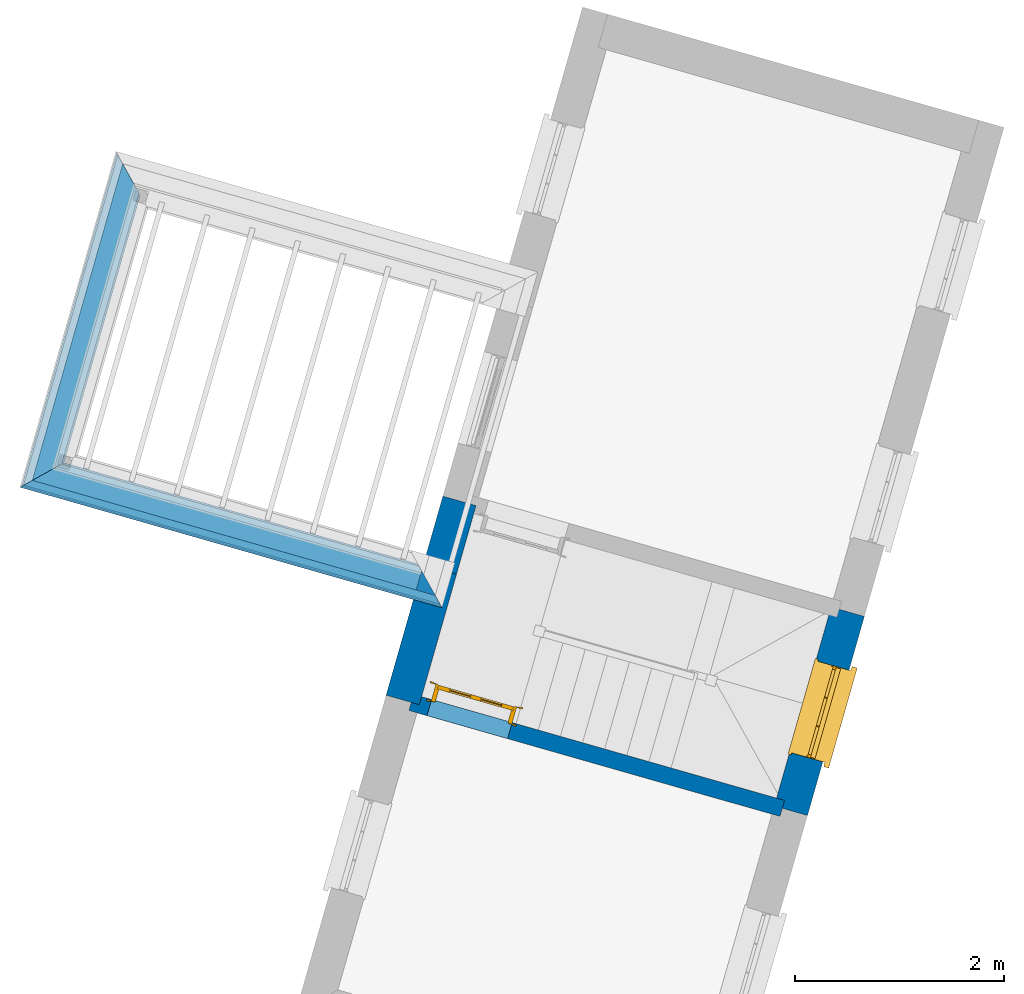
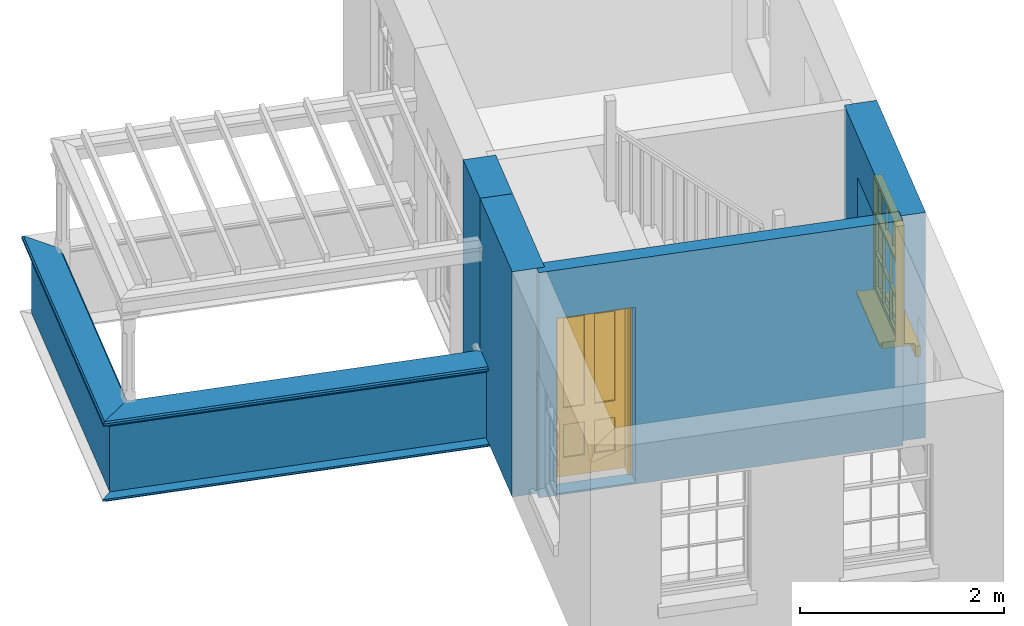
# One storey, part 2 of 6: 9 walls, 1 door, 1 window, 2 openings.
"""IFC4 building model written with IfcOpenShell, lengths in metres."""

from ifc_helpers import new_model, si_unit, frame, origin, origin_with_axes, place, context, subcontext, project, spatial, polyline, outline, extrude, clip, halfspace, faceted_brep, source, transform, mapped, material, layer, layer_set, layer_usage, material_profile, profile_set, profile_usage, type_object, type_shapes, element, fill, save


model = new_model("IFC4")

# Units and contexts
model_context = context("Model", 3, world=origin_with_axes())
body_context = subcontext(model_context, "Body", "Model", "MODEL_VIEW")
ifc_project = project(units=[si_unit("PLANEANGLEUNIT", "RADIAN"), si_unit("MASSUNIT", "GRAM", prefix="KILO"), si_unit("FORCEUNIT", "NEWTON", prefix="KILO"), si_unit("LENGTHUNIT", "METRE"), si_unit("AREAUNIT", "SQUARE_METRE"), si_unit("VOLUMEUNIT", "CUBIC_METRE")], contexts=[model_context, model_context])

# Sites, building, storey
site_1_placement = place(None, origin_with_axes())
site_1 = spatial("IfcSite", under=ifc_project, at=site_1_placement, Name="Tamar")
site_2_placement = place(site_1_placement, origin_with_axes())
site_2 = spatial("IfcSite", under=site_1, at=site_2_placement, Name="Site plot-20", CompositionType="ELEMENT")
building_placement = place(None, origin_with_axes())
building = spatial("IfcBuilding", under=site_2, at=building_placement, Name="Building plot-20", CompositionType="ELEMENT")
storey_placement = place(None, frame((0.0, 0.0, 29.15), z_axis=(0.0, 0.0, 1.0), x_axis=(1.0, 0.0, 0.0)))
storey = spatial("IfcBuildingStorey", under=building, at=storey_placement, Name="plot-20 1", CompositionType="ELEMENT", Elevation=29.15)

# Walls
ifc_material_1 = material(Name="Masonry")
ifc_layer_1 = layer(ifc_material_1, 0.33, ventilated=False)
ifc_layer_set_1 = layer_set([ifc_layer_1], Name="exterior_0.08_0.25")
ifc_layer_usage_1 = layer_usage(ifc_layer_set_1, "AXIS2", "POSITIVE", -0.25)
wall_type_1 = type_object("IfcWallType", Name="exterior_0.08_0.25", PredefinedType="SOLIDWALL", material=ifc_layer_set_1)
wall_1_placement = place(storey_placement, frame((277.587269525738, 289.452698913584, 0.0), z_axis=(0.0, 0.0, 1.0), x_axis=(-0.274568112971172, -0.96156765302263, 0.0)))
element("IfcWall", 1, at=wall_1_placement, inside=storey, type_object=wall_type_1, material=ifc_layer_usage_1, Name="exterior", context=body_context, shape_type="SweptSolid", body=[
    extrude(outline(polyline([(-8.47015431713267e-15, 0.0799999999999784), (-3.40685387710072e-14, -0.250000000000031), (0.682000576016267, -0.250000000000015), (0.682000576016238, 0.0799999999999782), (-8.47015431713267e-15, 0.0799999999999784)])), origin_with_axes(), (0.0, 0.0, 1.0), 2.7),
])
wall_2_placement = place(storey_placement, frame((277.400013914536, 288.796909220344, 0.0), z_axis=(0.0, 0.0, 1.0), x_axis=(-0.274568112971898, -0.961567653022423, 0.0)))
element("IfcWall", 2, at=wall_2_placement, inside=storey, type_object=wall_type_1, material=ifc_layer_usage_1, Name="exterior", context=body_context, shape_type="SweptSolid", body=[
    extrude(outline(polyline([(-6.88662868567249e-14, 0.0799999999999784), (2.09292348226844e-13, -0.250000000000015), (1.2961808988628, -0.250000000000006), (1.29618089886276, 0.079999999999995), (-6.88662868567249e-14, 0.0799999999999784)])), origin_with_axes(), (0.0, 0.0, 1.0), 2.7),
])

# Wall, opening, window
wall_3_placement = place(storey_placement, frame((280.589201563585, 286.538274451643, 0.0), z_axis=(0.0, 0.0, 1.0), x_axis=(0.274568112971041, 0.961567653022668, 0.0)))
wall_3 = element("IfcWall", 3, at=wall_3_placement, inside=storey, type_object=wall_type_1, material=ifc_layer_usage_1, Name="exterior", context=body_context, shape_type="SweptSolid", body=[
    extrude(outline(polyline([(5.71680616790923e-14, 0.079999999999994), (-1.93330031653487e-13, -0.250000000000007), (1.97818147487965, -0.250000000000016), (1.97818147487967, 0.0799999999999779), (5.71680616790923e-14, 0.079999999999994)])), origin_with_axes(), (0.0, 0.0, 1.0), 2.7),
])
opening_1_placement = place(wall_3_placement, frame((0.534090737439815, 0.0, 0.75)))
opening_1 = element("IfcOpeningElement", 4, at=opening_1_placement, cuts=wall_3, Name="My Opening", ObjectType="Opening", context=body_context, shape_type="SweptSolid", body=[
    extrude(outline(polyline([(0.0, -0.269999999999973), (0.910000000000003, -0.270000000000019), (0.910000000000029, 1.09999999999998), (2.58681964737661e-14, 1.10000000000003), (0.0, -0.269999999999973)])), origin_with_axes(), (0.0, 0.0, 1.0), 1.445),
])
window_type = type_object("IfcWindowType", Name="sash_shorter", PartitioningType="DOUBLE_PANEL_HORIZONTAL", PredefinedType="NOTDEFINED")
shared_shape_1 = source(origin(), body_context, "Body", "Brep", [
    faceted_brep([(0.876875, 0.145, 0.999097), (0.876875, 0.145, 1.411875), (0.9, 0.145, 1.435), (0.033125, 0.145, 1.411875), (0.033125, 0.145, 0.999097), (0.01, 0.145, 1.435), (0.033125, 0.115, 1.411875), (0.01, 0.115, 1.435), (0.033125, 0.115, 0.999097), (0.876875, 0.115, 1.411875), (0.876875, 0.115, 0.999097), (0.9, 0.115, 1.435), (0.033125, 0.145, 0.960972), (0.01, 0.145, 0.960972), (0.033125, 0.145, 0.548195), (0.876875, 0.145, 0.960972), (0.876875, 0.145, 0.548195), (0.9, 0.145, 0.960972), (0.876875, 0.145, 0.538195), (0.876875, 0.145, 0.125417), (0.9, 0.145, 0.077167), (0.033125, 0.145, 0.125417), (0.033125, 0.145, 0.538195), (0.01, 0.145, 0.077167), (0.9, 0.115, 0.960972), (0.01, 0.115, 0.960972), (-0.0425, 0.0, 0.01), (-0.0425, -0.05, 0.001667), (0.0, 0.0, 0.01), (0.9525, 0.0, 0.01), (0.91, 0.0, 0.01), (0.9525, -0.05, 0.001667), (-0.02, 0.33, 0.077167), (0.0, 0.33, 0.077167), (-0.02, 0.36, 0.077167), (0.0, 0.19, 0.077167), (0.01, 0.19, 0.077167), (0.91, 0.19, 0.077167), (0.91, 0.33, 0.077167), (0.9, 0.19, 0.077167), (0.93, 0.33, 0.077167), (0.93, 0.36, 0.077167), (0.01, 0.145, 0.999097), (0.01, 0.175, 0.999097), (0.9, 0.145, 0.999097), (0.9, 0.175, 0.999097), (0.876875, 0.175, 0.125417), (0.876875, 0.175, 0.538195), (0.9, 0.175, 0.077167), (0.876875, 0.175, 0.548195), (0.876875, 0.175, 0.960972), (0.033125, 0.175, 0.125417), (0.01, 0.175, 0.077167), (0.033125, 0.175, 0.538195), (0.033125, 0.175, 0.960972), (0.033125, 0.175, 0.548195), (-0.02, 0.33, 0.052167), (-0.02, 0.36, 0.052167), (0.93, 0.36, 0.052167), (0.93, 0.33, 0.052167), (0.91, 0.33, 0.052167), (0.0, 0.33, 0.052167), (0.91, 0.1, 0.026667), (0.0, 0.1, 0.026667), (-0.0425, -0.05, -0.123333), (0.9525, -0.05, -0.123333), (-0.0425, 0.0, -0.123333), (0.9525, 0.0, -0.123333), (0.01, 0.19, 1.435), (0.9, 0.19, 1.435), (0.0, 0.19, 1.445), (0.91, 0.19, 1.445), (0.01, 0.1, 0.077167), (0.9, 0.1, 0.077167), (0.592292, 0.145, 0.125417), (0.592292, 0.175, 0.125417), (0.317708, 0.175, 0.125417), (0.317708, 0.145, 0.125417), (0.592292, 0.145, 0.548195), (0.317708, 0.145, 0.548195), (0.317708, 0.145, 0.538195), (0.592292, 0.145, 0.538195), (0.592292, 0.175, 0.548195), (0.317708, 0.175, 0.548195), (0.602292, 0.175, 0.548195), (0.602292, 0.145, 0.548195), (0.317708, 0.175, 0.538195), (0.307708, 0.175, 0.125417), (0.307708, 0.175, 0.538195), (0.602292, 0.175, 0.538195), (0.602292, 0.175, 0.125417), (0.592292, 0.175, 0.538195), (0.307708, 0.175, 0.548195), (0.317708, 0.175, 0.960972), (0.307708, 0.175, 0.960972), (0.602292, 0.175, 0.960972), (0.592292, 0.175, 0.960972), (0.307708, 0.145, 0.538195), (0.307708, 0.145, 0.125417), (0.307708, 0.145, 0.548195), (0.307708, 0.145, 0.960972), (0.592292, 0.145, 0.960972), (0.317708, 0.145, 0.960972), (0.602292, 0.145, 0.960972), (0.602292, 0.145, 0.538195), (0.602292, 0.145, 0.125417), (0.317708, 0.115, 1.411875), (0.307708, 0.115, 1.411875), (0.307708, 0.115, 0.999097), (0.317708, 0.115, 0.999097), (0.602292, 0.115, 1.411875), (0.592292, 0.115, 1.411875), (0.592292, 0.115, 0.999097), (0.602292, 0.115, 0.999097), (0.317708, 0.145, 0.999097), (0.307708, 0.145, 0.999097), (0.307708, 0.145, 1.411875), (0.317708, 0.145, 1.411875), (0.602292, 0.145, 0.999097), (0.592292, 0.145, 0.999097), (0.592292, 0.145, 1.411875), (0.602292, 0.145, 1.411875), (0.91, 0.1, 1.445), (0.9, 0.1, 1.435), (0.01, 0.1, 1.435), (0.0, 0.1, 1.445), (0.91, 0.0, 0.0), (0.0, 0.0, 0.0), (0.91, 0.33, 0.0), (0.0, 0.33, 0.0)], [[[0, 1, 2]], [[3, 4, 5]], [[6, 7, 8]], [[9, 10, 11]], [[12, 13, 14]], [[15, 16, 17]], [[18, 19, 20]], [[21, 22, 23]], [[24, 15, 17]], [[13, 12, 25]], [[26, 27, 28]], [[29, 30, 31]], [[32, 33, 34]], [[35, 36, 33]], [[37, 38, 39]], [[40, 41, 38]], [[42, 4, 43]], [[44, 45, 0]], [[46, 47, 48]], [[49, 50, 45]], [[51, 52, 53]], [[54, 55, 43]], [[38, 33, 36, 39]], [[41, 34, 33, 38]], [[56, 32, 34, 57]], [[57, 34, 41, 58]], [[58, 41, 40, 59]], [[57, 58, 60, 61]], [[52, 48, 39, 36]], [[62, 63, 28, 30]], [[27, 31, 30, 28]], [[27, 64, 65, 31]], [[66, 67, 65, 64]], [[2, 5, 68, 69]], [[68, 70, 71, 69]], [[20, 23, 72, 73]], [[73, 72, 63, 62]], [[74, 75, 76, 77]], [[78, 79, 80, 81]], [[78, 82, 83, 79]], [[16, 49, 84, 85]], [[86, 76, 87, 88]], [[89, 90, 75, 91]], [[92, 88, 53, 55]], [[82, 91, 86, 83]], [[93, 83, 92, 94]], [[95, 84, 82, 96]], [[89, 84, 49, 47]], [[97, 88, 87, 98]], [[22, 53, 88, 97]], [[81, 91, 75, 74]], [[80, 86, 91, 81]], [[77, 76, 86, 80]], [[99, 92, 55, 14]], [[100, 94, 92, 99]], [[101, 96, 82, 78]], [[79, 83, 93, 102]], [[85, 84, 95, 103]], [[104, 89, 47, 18]], [[105, 90, 89, 104]], [[104, 18, 16, 85]], [[80, 97, 98, 77]], [[104, 81, 74, 105]], [[103, 101, 78, 85]], [[99, 14, 22, 97]], [[102, 100, 99, 79]], [[106, 107, 108, 109]], [[110, 111, 112, 113]], [[114, 115, 116, 117]], [[118, 119, 120, 121]], [[107, 116, 115, 108]], [[111, 120, 119, 112]], [[109, 114, 117, 106]], [[113, 118, 121, 110]], [[85, 78, 81, 104]], [[84, 89, 91, 82]], [[83, 86, 88, 92]], [[79, 99, 97, 80]], [[109, 112, 119, 114]], [[102, 93, 96, 101]], [[106, 117, 120, 111]], [[98, 87, 51, 21]], [[6, 3, 116, 107]], [[110, 121, 1, 9]], [[19, 46, 90, 105]], [[26, 66, 64, 27]], [[29, 31, 65, 67]], [[25, 24, 112, 109]], [[11, 7, 106, 111]], [[75, 48, 52, 76]], [[43, 45, 96, 93]], [[45, 43, 114, 119]], [[5, 2, 120, 117]], [[24, 25, 102, 101]], [[42, 5, 4]], [[2, 44, 0]], [[49, 45, 48, 47]], [[52, 43, 55, 53]], [[14, 13, 23, 22]], [[20, 17, 16, 18]], [[24, 11, 10]], [[25, 8, 7]], [[8, 4, 3, 6]], [[9, 1, 0, 10]], [[15, 50, 49, 16]], [[18, 47, 46, 19]], [[21, 51, 53, 22]], [[14, 55, 54, 12]], [[44, 2, 69, 45]], [[68, 5, 42, 43]], [[36, 35, 70, 68]], [[39, 69, 71, 37]], [[62, 122, 123, 73]], [[63, 72, 124, 125]], [[8, 108, 115, 4]], [[113, 10, 0, 118]], [[94, 100, 12, 54]], [[17, 20, 73, 24]], [[72, 23, 13, 25]], [[52, 36, 68, 43]], [[69, 39, 48, 45]], [[11, 24, 73, 123]], [[7, 124, 72, 25]], [[23, 77, 98]], [[98, 21, 23]], [[105, 74, 20]], [[20, 19, 105]], [[20, 74, 77, 23]], [[113, 112, 24]], [[24, 10, 113]], [[25, 109, 108]], [[108, 8, 25]], [[110, 9, 11]], [[11, 111, 110]], [[7, 6, 107]], [[107, 106, 7]], [[5, 117, 116]], [[116, 3, 5]], [[121, 120, 2]], [[2, 1, 121]], [[11, 123, 124, 7]], [[122, 125, 124, 123]], [[43, 93, 94]], [[94, 54, 43]], [[96, 45, 95]], [[50, 95, 45]], [[15, 103, 95, 50]], [[48, 75, 90]], [[90, 46, 48]], [[87, 76, 52]], [[52, 51, 87]], [[103, 15, 24]], [[24, 101, 103]], [[100, 102, 25]], [[25, 12, 100]], [[115, 114, 43]], [[43, 4, 115]], [[118, 0, 45]], [[45, 119, 118]], [[71, 70, 125, 122]], [[70, 35, 63, 125]], [[122, 62, 37, 71]], [[126, 67, 66, 127]], [[60, 58, 59]], [[38, 60, 59, 40]], [[61, 56, 57]], [[32, 56, 61, 33]], [[61, 60, 128, 129]], [[62, 60, 38, 37]], [[126, 128, 60, 62]], [[33, 61, 63, 35]], [[61, 129, 127, 63]], [[128, 126, 127, 129]], [[28, 127, 66, 26]], [[63, 127, 28]], [[29, 67, 126, 30]], [[30, 126, 62]]]),
])
type_shapes(window_type, [shared_shape_1])
window_placement = place(storey_placement, frame((280.995469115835, 286.977705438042, 0.75), z_axis=(0.0, 0.0, 1.0), x_axis=(0.249856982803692, 0.875026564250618, 0.0)))
window = element("IfcWindow", 5, at=window_placement, inside=storey, type_object=window_type, Name="circulation outside window", OverallHeight=1.445, OverallWidth=0.91, context=body_context, shape_type="MappedRepresentation", body=[
    mapped(shared_shape_1, transform((0.0, 0.0, 0.0), scale=1.0)),
])
fill(opening_1, window)

# Wall, opening, door
ifc_material_2 = material(Name="Masonry")
ifc_layer_2 = layer(ifc_material_2, 0.16, ventilated=False)
ifc_layer_set_2 = layer_set([ifc_layer_2], Name="interior_0.08_0.08")
ifc_layer_usage_2 = layer_usage(ifc_layer_set_2, "AXIS2", "POSITIVE", -0.08)
wall_type_2 = type_object("IfcWallType", Name="interior_0.08_0.08", PredefinedType="SOLIDWALL", material=ifc_layer_set_2)
wall_4_placement = place(storey_placement, frame((277.044123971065, 287.550543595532, 0.0), z_axis=(0.0, 0.0, 1.0), x_axis=(0.961567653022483, -0.274568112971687, 0.0)))
wall_4 = element("IfcWall", 6, at=wall_4_placement, inside=storey, type_object=wall_type_2, material=ifc_layer_usage_2, Name="interior", context=body_context, shape_type="SweptSolid", body=[
    extrude(outline(polyline([(3.37997658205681e-15, 0.079999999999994), (-3.35424661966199e-15, -0.079999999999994), (3.6867687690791, -0.079999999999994), (3.68676876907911, 0.0799999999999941), (3.37997658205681e-15, 0.079999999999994)])), origin_with_axes(), (0.0, 0.0, 1.0), 2.7),
])
opening_2_placement = place(wall_4_placement, frame((0.180000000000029, 0.0, 0.0199999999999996)))
opening_2 = element("IfcOpeningElement", 7, at=opening_2_placement, cuts=wall_4, Name="My Opening", ObjectType="Opening", context=body_context, shape_type="SweptSolid", body=[
    extrude(outline(polyline([(0.0, -0.0999999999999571), (0.799999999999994, -0.0999999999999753), (0.799999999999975, 1.09999999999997), (-1.9595436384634e-14, 1.09999999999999), (0.0, -0.0999999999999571)])), origin_with_axes(), (0.0, 0.0, 1.0), 2.1),
])
door_type = type_object("IfcDoorType", Name="door_inside", OperationType="SINGLE_SWING_LEFT", PredefinedType="NOTDEFINED")
shared_shape_2 = source(origin(), body_context, "Body", "Brep", [
    faceted_brep([(0.773, 0.33, 1.895), (0.66, 0.33, 1.895), (0.66, 0.33, 2.073), (0.773, 0.33, 2.073), (0.773, 0.33, 0.82), (0.66, 0.33, 0.82), (0.45, 0.33, 1.895), (0.45, 0.33, 2.073), (0.773, 0.33, 0.62), (0.66, 0.33, 0.62), (0.66, 0.315, 0.82), (0.66, 0.315, 1.895), (0.45, 0.315, 1.895), (0.35, 0.33, 1.895), (0.35, 0.33, 2.073), (0.773, 0.33, 0.225), (0.66, 0.33, 0.225), (0.45, 0.33, 0.62), (0.45, 0.33, 0.82), (0.45, 0.315, 0.82), (0.35, 0.33, 0.82), (0.14, 0.33, 2.073), (0.14, 0.33, 1.895), (0.773, 0.33, 0.0), (0.66, 0.33, 0.0), (0.66, 0.315, 0.225), (0.66, 0.315, 0.62), (0.45, 0.315, 0.62), (0.35, 0.33, 0.62), (0.35, 0.315, 0.82), (0.35, 0.315, 1.895), (0.14, 0.315, 1.895), (0.027, 0.33, 2.073), (0.027, 0.33, 1.895), (0.773, 0.292, 0.0), (0.66, 0.292, 0.0), (0.45, 0.33, 0.0), (0.45, 0.33, 0.225), (0.45, 0.315, 0.225), (0.35, 0.33, 0.225), (0.14, 0.33, 0.82), (0.14, 0.33, 0.62), (0.14, 0.315, 0.82), (0.027, 0.33, 0.82), (0.773, 0.292, 0.225), (0.66, 0.292, 0.225), (0.45, 0.292, 0.0), (0.35, 0.33, 0.0), (0.35, 0.315, 0.225), (0.35, 0.315, 0.62), (0.14, 0.315, 0.62), (0.027, 0.33, 0.62), (0.773, 0.292, 0.62), (0.66, 0.292, 0.62), (0.45, 0.292, 0.225), (0.35, 0.292, 0.0), (0.14, 0.33, 0.225), (0.14, 0.33, 0.0), (0.14, 0.315, 0.225), (0.027, 0.33, 0.225), (0.773, 0.292, 0.82), (0.66, 0.292, 0.82), (0.66, 0.307, 0.62), (0.66, 0.307, 0.225), (0.45, 0.307, 0.225), (0.35, 0.292, 0.225), (0.14, 0.292, 0.0), (0.027, 0.33, 0.0), (0.773, 0.292, 1.895), (0.66, 0.292, 1.895), (0.45, 0.292, 0.62), (0.45, 0.292, 0.82), (0.45, 0.307, 0.62), (0.35, 0.292, 0.62), (0.14, 0.292, 0.225), (0.027, 0.292, 0.0), (0.773, 0.292, 2.073), (0.66, 0.292, 2.073), (0.66, 0.307, 1.895), (0.66, 0.307, 0.82), (0.45, 0.307, 0.82), (0.35, 0.292, 0.82), (0.35, 0.307, 0.62), (0.35, 0.307, 0.225), (0.14, 0.307, 0.225), (0.027, 0.292, 0.225), (0.45, 0.292, 1.895), (0.45, 0.292, 2.073), (0.45, 0.307, 1.895), (0.35, 0.292, 1.895), (0.14, 0.292, 0.82), (0.14, 0.292, 0.62), (0.14, 0.307, 0.62), (0.027, 0.292, 0.62), (0.35, 0.292, 2.073), (0.35, 0.307, 1.895), (0.35, 0.307, 0.82), (0.14, 0.307, 0.82), (0.027, 0.292, 0.82), (0.14, 0.292, 2.073), (0.14, 0.292, 1.895), (0.14, 0.307, 1.895), (0.027, 0.292, 1.895), (0.027, 0.292, 2.073), (0.02, 0.335, 0.0), (0.005, 0.34, 0.0), (0.005, 0.34, 2.095), (0.02, 0.335, 2.08), (0.02, 0.33, 0.0), (0.0, 0.335, 0.0), (0.0, 0.335, 2.1), (0.795, 0.34, 2.095), (0.78, 0.335, 2.08), (0.02, 0.33, 2.08), (0.0, 0.33, 0.0), (-0.032, 0.345, 0.0), (-0.032, 0.345, 2.132), (0.8, 0.335, 2.1), (0.795, 0.34, 0.0), (0.78, 0.335, 0.0), (0.78, 0.33, 2.08), (0.04, 0.29, 0.0), (0.025, 0.29, 0.0), (0.025, 0.29, 2.075), (0.04, 0.29, 2.06), (-0.04, 0.34, 0.0), (-0.04, 0.34, 2.14), (0.832, 0.345, 2.132), (0.8, 0.335, 0.0), (0.78, 0.33, 0.0), (0.8, 0.33, 0.0), (0.86, 0.33, 0.0), (0.86, 0.33, 2.16), (0.8, 0.33, 2.1), (-0.06, 0.33, 2.16), (0.0, 0.33, 2.1), (-0.06, 0.33, 0.0), (-0.04, 0.345, 0.0), (-0.04, 0.345, 2.14), (0.84, 0.34, 2.14), (0.832, 0.345, 0.0), (0.84, 0.34, 0.0), (0.86, 0.345, 0.0), (0.86, 0.345, 2.16), (-0.06, 0.345, 2.16), (-0.06, 0.345, 0.0), (0.84, 0.345, 0.0), (0.84, 0.345, 2.14), (-0.025, 0.155, 0.0), (-0.025, 0.16, 0.0), (-0.025, 0.16, 2.125), (-0.025, 0.155, 2.125), (-0.017, 0.155, 0.0), (-0.017, 0.155, 2.117), (0.825, 0.16, 2.125), (0.825, 0.155, 2.125), (0.825, 0.155, 0.0), (0.845, 0.155, 0.0), (-0.045, 0.155, 2.145), (-0.045, 0.155, 0.0), (0.845, 0.155, 2.145), (0.015, 0.165, 0.0), (0.015, 0.165, 2.085), (0.817, 0.155, 2.117), (0.825, 0.16, 0.0), (0.845, 0.17, 0.0), (0.845, 0.17, 2.145), (-0.045, 0.17, 2.145), (-0.045, 0.17, 0.0), (0.02, 0.16, 0.0), (0.02, 0.16, 2.08), (0.785, 0.165, 2.085), (0.817, 0.155, 0.0), (0.8, 0.17, 0.0), (0.8, 0.17, 2.1), (0.0, 0.17, 2.1), (0.0, 0.17, 0.0), (0.035, 0.165, 0.0), (0.035, 0.165, 2.065), (0.78, 0.16, 2.08), (0.785, 0.165, 0.0), (0.775, 0.29, 2.075), (0.76, 0.29, 2.06), (0.035, 0.17, 2.065), (0.035, 0.17, 0.0), (0.765, 0.165, 2.065), (0.78, 0.16, 0.0), (0.765, 0.17, 0.0), (0.765, 0.17, 2.065), (0.765, 0.165, 0.0), (0.04, 0.17, 2.06), (0.04, 0.17, 0.0), (0.76, 0.17, 2.06), (0.76, 0.17, 0.0), (0.76, 0.29, 0.0), (0.775, 0.29, 0.0), (0.025, 0.33, 0.0), (0.025, 0.33, 2.075), (0.775, 0.33, 0.0), (0.775, 0.33, 2.075)], [[[0, 1, 2, 3]], [[1, 0, 4, 5]], [[1, 6, 7, 2]], [[8, 9, 5, 4]], [[1, 5, 10, 11]], [[6, 1, 11, 12]], [[6, 13, 14, 7]], [[15, 16, 9, 8]], [[9, 17, 18, 5]], [[5, 18, 19, 10]], [[10, 19, 12, 11]], [[18, 6, 12, 19]], [[18, 20, 13, 6]], [[21, 14, 13, 22]], [[23, 24, 16, 15]], [[9, 16, 25, 26]], [[17, 9, 26, 27]], [[17, 28, 20, 18]], [[13, 20, 29, 30]], [[22, 13, 30, 31]], [[32, 21, 22, 33]], [[34, 35, 24, 23]], [[24, 36, 37, 16]], [[16, 37, 38, 25]], [[25, 38, 27, 26]], [[37, 17, 27, 38]], [[37, 39, 28, 17]], [[40, 20, 28, 41]], [[20, 40, 42, 29]], [[31, 30, 29, 42]], [[40, 22, 31, 42]], [[33, 22, 40, 43]], [[35, 34, 44, 45]], [[35, 46, 36, 24]], [[36, 47, 39, 37]], [[28, 39, 48, 49]], [[41, 28, 49, 50]], [[43, 40, 41, 51]], [[45, 44, 52, 53]], [[46, 35, 45, 54]], [[46, 55, 47, 36]], [[56, 39, 47, 57]], [[39, 56, 58, 48]], [[50, 49, 48, 58]], [[56, 41, 50, 58]], [[51, 41, 56, 59]], [[53, 52, 60, 61]], [[45, 53, 62, 63]], [[54, 45, 63, 64]], [[55, 46, 54, 65]], [[55, 66, 57, 47]], [[59, 56, 57, 67]], [[61, 60, 68, 69]], [[70, 53, 61, 71]], [[53, 70, 72, 62]], [[72, 64, 63, 62]], [[70, 54, 64, 72]], [[65, 54, 70, 73]], [[65, 74, 66, 55]], [[67, 57, 66, 75]], [[69, 68, 76, 77]], [[61, 69, 78, 79]], [[71, 61, 79, 80]], [[73, 70, 71, 81]], [[65, 73, 82, 83]], [[74, 65, 83, 84]], [[74, 85, 75, 66]], [[86, 69, 77, 87]], [[69, 86, 88, 78]], [[88, 80, 79, 78]], [[86, 71, 80, 88]], [[81, 71, 86, 89]], [[73, 81, 90, 91]], [[73, 91, 92, 82]], [[83, 82, 92, 84]], [[91, 74, 84, 92]], [[91, 93, 85, 74]], [[89, 86, 87, 94]], [[81, 89, 95, 96]], [[90, 81, 96, 97]], [[90, 98, 93, 91]], [[94, 99, 100, 89]], [[89, 100, 101, 95]], [[101, 97, 96, 95]], [[100, 90, 97, 101]], [[100, 102, 98, 90]], [[99, 103, 102, 100]], [[32, 103, 99, 21]], [[102, 103, 32, 33]], [[98, 102, 33, 43]], [[21, 99, 94, 14]], [[94, 87, 7, 14]], [[7, 87, 77, 2]], [[76, 3, 2, 77]], [[43, 51, 93, 98]], [[51, 59, 85, 93]], [[67, 75, 85, 59]], [[34, 23, 15, 44]], [[44, 15, 8, 52]], [[52, 8, 4, 60]], [[0, 68, 60, 4]], [[0, 3, 76, 68]], [[104, 105, 106, 107]], [[104, 108, 109, 105]], [[105, 109, 110, 106]], [[107, 106, 111, 112]], [[107, 113, 108, 104]], [[114, 109, 108]], [[109, 115, 116, 110]], [[106, 110, 117, 111]], [[112, 111, 118, 119]], [[113, 107, 112, 120]], [[121, 122, 123, 124]], [[115, 109, 114, 125]], [[115, 125, 126, 116]], [[110, 116, 127, 117]], [[111, 117, 128, 118]], [[118, 128, 129, 119]], [[120, 112, 119, 129]], [[130, 129, 128]], [[130, 131, 132, 133]], [[133, 132, 134, 135]], [[135, 134, 136, 114]], [[136, 125, 114]], [[125, 137, 138, 126]], [[116, 126, 139, 127]], [[117, 127, 140, 128]], [[141, 130, 128, 140]], [[131, 130, 141]], [[131, 142, 143, 132]], [[132, 143, 144, 134]], [[134, 144, 145, 136]], [[137, 125, 136, 145]], [[143, 142, 146]], [[143, 146, 147]], [[137, 145, 144]], [[143, 147, 138]], [[138, 137, 144]], [[143, 138, 144]], [[126, 138, 147, 139]], [[127, 139, 141, 140]], [[142, 131, 141, 146]], [[139, 147, 146, 141]], [[148, 149, 150, 151]], [[149, 152, 153, 150]], [[151, 150, 154, 155]], [[155, 156, 157]], [[158, 159, 148]], [[158, 148, 151]], [[155, 157, 160]], [[158, 151, 155]], [[155, 160, 158]], [[152, 161, 162, 153]], [[150, 153, 163, 154]], [[155, 154, 164, 156]], [[156, 164, 165, 157]], [[157, 165, 166, 160]], [[160, 166, 167, 158]], [[158, 167, 168, 159]], [[161, 169, 170, 162]], [[153, 162, 171, 163]], [[154, 163, 172, 164]], [[165, 164, 173]], [[165, 173, 174, 166]], [[166, 174, 175, 167]], [[167, 175, 176, 168]], [[169, 177, 178, 170]], [[162, 170, 179, 171]], [[163, 171, 180, 172]], [[172, 180, 173, 164]], [[124, 123, 181, 182]], [[183, 178, 177, 184]], [[170, 178, 185, 179]], [[171, 179, 186, 180]], [[187, 173, 180]], [[185, 188, 187, 189]], [[188, 185, 178, 183]], [[179, 185, 189, 186]], [[189, 187, 180, 186]], [[190, 183, 184, 191]], [[192, 188, 183, 190]], [[191, 184, 122, 121]], [[124, 190, 191, 121]], [[193, 187, 188, 192]], [[182, 192, 190, 124]], [[184, 176, 122]], [[194, 195, 187, 193]], [[192, 182, 194, 193]], [[161, 176, 184]], [[114, 108, 122, 176]], [[173, 187, 195]], [[152, 149, 176, 161]], [[169, 161, 184, 177]], [[196, 122, 108]], [[176, 175, 135, 114]], [[173, 195, 129, 130]], [[176, 149, 168]], [[123, 122, 196, 197]], [[196, 108, 113, 197]], [[175, 174, 133, 135]], [[198, 129, 195]], [[133, 174, 173, 130]], [[159, 168, 149, 148]], [[181, 123, 197, 199]], [[197, 113, 120, 199]], [[199, 120, 129, 198]], [[195, 181, 199, 198]], [[195, 194, 182, 181]]]),
])
type_shapes(door_type, [shared_shape_2])
door_placement = place(storey_placement, frame((277.189749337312, 287.404964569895, 0.0199999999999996), z_axis=(0.0, 0.0, 1.0), x_axis=(0.769254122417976, -0.219654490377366, 0.0)))
door = element("IfcDoor", 8, at=door_placement, inside=storey, type_object=door_type, Name="bedroom inside door", OverallHeight=2.1, OverallWidth=0.8, context=body_context, shape_type="MappedRepresentation", body=[
    mapped(shared_shape_2, transform((0.0, 0.0, 0.0), scale=1.0)),
])
fill(opening_2, door)

# Walls
ifc_material_profile_1 = material_profile(None, outline(polyline([(0.25, 0.0), (0.25, 0.795), (0.09, 0.795), (0.09, 0.02), (-0.08, 0.02), (-0.08, 0.0), (0.25, 0.0)])))
ifc_profile_set_1 = profile_set([ifc_material_profile_1])
ifc_profile_usage_1 = profile_usage(ifc_profile_set_1)
wall_type_3 = type_object("IfcWallType", Name="parapet_0", PredefinedType="PARAPET", material=ifc_profile_set_1)
wall_5_placement = place(storey_placement, frame((273.458765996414, 288.88233327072, 0.0), z_axis=(0.274568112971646, 0.961567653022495, 0.0), x_axis=(-0.961567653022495, 0.274568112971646, 0.0)))
element("IfcWall", 9, at=wall_5_placement, inside=storey, type_object=wall_type_3, material=ifc_profile_usage_1, Name="parapet_0", context=body_context, shape_type="Clipping", body=[
    clip(clip(extrude(outline(polyline([(0.25, 0.0), (0.25, 0.795), (0.09, 0.795), (0.09, 0.02), (-0.08, 0.02), (-0.08, 0.0), (0.25, 0.0)])), origin_with_axes(), (0.0, 0.0, 1.0), 4.64537764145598), halfspace(frame((0.0, 0.0, 3.64537764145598), z_axis=(0.707106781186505, 0.0, -0.70710678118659), x_axis=(0.0, 1.0, 0.0)), True)), halfspace(frame((0.0, 0.0, 1.0), z_axis=(-0.707106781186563, 0.0, -0.707106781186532), x_axis=(0.0, 1.0, 0.0)), False)),
])
ifc_profile_usage_2 = profile_usage(ifc_profile_set_1)
wall_6_placement = place(storey_placement, frame((278.063495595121, 288.607457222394, 0.0), z_axis=(-0.961567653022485, 0.274568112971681, 0.0), x_axis=(-0.274568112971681, -0.961567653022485, 0.0)))
element("IfcWall", 10, at=wall_6_placement, inside=storey, type_object=wall_type_3, material=ifc_profile_usage_2, Name="parapet_0", context=body_context, shape_type="Clipping", body=[
    clip(clip(extrude(outline(polyline([(0.25, 0.0), (0.25, 0.795), (0.09, 0.795), (0.09, 0.02), (-0.08, 0.02), (-0.08, 0.0), (0.25, 0.0)])), origin_with_axes(), (0.0, 0.0, 1.0), 5.50323123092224), halfspace(frame((0.0, 0.0, 4.50323123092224), z_axis=(0.707106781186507, 0.0, -0.707106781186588), x_axis=(0.0, 1.0, 0.0)), True)), halfspace(frame((0.0, 0.0, 1.0), z_axis=(-0.707106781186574, 0.0, -0.707106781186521), x_axis=(0.0, 1.0, 0.0)), False)),
])
ifc_material_profile_2 = material_profile(None, outline(polyline([(0.265, 0.795), (0.268, 0.807), (0.274, 0.816), (0.283, 0.822), (0.295, 0.825), (0.295, 0.84), (0.305, 0.84), (0.317, 0.842), (0.326, 0.849), (0.333, 0.858), (0.335, 0.87), (0.333, 0.882), (0.326, 0.891), (0.317, 0.898), (0.305, 0.9), (0.035, 0.9), (0.023, 0.898), (0.014, 0.891), (0.007, 0.882), (0.005, 0.87), (0.007, 0.858), (0.014, 0.849), (0.023, 0.842), (0.035, 0.84), (0.045, 0.84), (0.045, 0.825), (0.057, 0.822), (0.066, 0.816), (0.072, 0.807), (0.075, 0.795), (0.265, 0.795)])))
ifc_profile_set_2 = profile_set([ifc_material_profile_2])
ifc_profile_usage_3 = profile_usage(ifc_profile_set_2)
wall_type_4 = type_object("IfcWallType", Name="parapet_1", PredefinedType="PARAPET", material=ifc_profile_set_2)
wall_7_placement = place(storey_placement, frame((273.458765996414, 288.88233327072, 0.0), z_axis=(0.274568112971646, 0.961567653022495, 0.0), x_axis=(-0.961567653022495, 0.274568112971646, 0.0)))
element("IfcWall", 11, at=wall_7_placement, inside=storey, type_object=wall_type_4, material=ifc_profile_usage_3, Name="parapet_1", context=body_context, shape_type="Clipping", body=[
    clip(clip(extrude(outline(polyline([(0.265, 0.795), (0.268, 0.807), (0.274, 0.816), (0.283, 0.822), (0.295, 0.825), (0.295, 0.84), (0.305, 0.84), (0.317, 0.842), (0.326, 0.849), (0.333, 0.858), (0.335, 0.87), (0.333, 0.882), (0.326, 0.891), (0.317, 0.898), (0.305, 0.9), (0.035, 0.9), (0.023, 0.898), (0.014, 0.891), (0.007, 0.882), (0.005, 0.87), (0.007, 0.858), (0.014, 0.849), (0.023, 0.842), (0.035, 0.84), (0.045, 0.84), (0.045, 0.825), (0.057, 0.822), (0.066, 0.816), (0.072, 0.807), (0.075, 0.795), (0.265, 0.795)])), origin_with_axes(), (0.0, 0.0, 1.0), 4.64537764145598), halfspace(frame((0.0, 0.0, 3.64537764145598), z_axis=(0.707106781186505, 0.0, -0.70710678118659), x_axis=(0.0, 1.0, 0.0)), True)), halfspace(frame((0.0, 0.0, 1.0), z_axis=(-0.707106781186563, 0.0, -0.707106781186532), x_axis=(0.0, 1.0, 0.0)), False)),
])
ifc_profile_usage_4 = profile_usage(ifc_profile_set_2)
wall_8_placement = place(storey_placement, frame((278.063495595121, 288.607457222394, 0.0), z_axis=(-0.961567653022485, 0.274568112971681, 0.0), x_axis=(-0.274568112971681, -0.961567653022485, 0.0)))
element("IfcWall", 12, at=wall_8_placement, inside=storey, type_object=wall_type_4, material=ifc_profile_usage_4, Name="parapet_1", context=body_context, shape_type="Clipping", body=[
    clip(clip(extrude(outline(polyline([(0.265, 0.795), (0.268, 0.807), (0.274, 0.816), (0.283, 0.822), (0.295, 0.825), (0.295, 0.84), (0.305, 0.84), (0.317, 0.842), (0.326, 0.849), (0.333, 0.858), (0.335, 0.87), (0.333, 0.882), (0.326, 0.891), (0.317, 0.898), (0.305, 0.9), (0.035, 0.9), (0.023, 0.898), (0.014, 0.891), (0.007, 0.882), (0.005, 0.87), (0.007, 0.858), (0.014, 0.849), (0.023, 0.842), (0.035, 0.84), (0.045, 0.84), (0.045, 0.825), (0.057, 0.822), (0.066, 0.816), (0.072, 0.807), (0.075, 0.795), (0.265, 0.795)])), origin_with_axes(), (0.0, 0.0, 1.0), 5.50323123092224), halfspace(frame((0.0, 0.0, 4.50323123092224), z_axis=(0.707106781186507, 0.0, -0.707106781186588), x_axis=(0.0, 1.0, 0.0)), True)), halfspace(frame((0.0, 0.0, 1.0), z_axis=(-0.707106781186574, 0.0, -0.707106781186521), x_axis=(0.0, 1.0, 0.0)), False)),
])
ifc_material_profile_3 = material_profile(None, outline(polyline([(0.25, -0.1), (0.265, -0.1), (0.265, -0.085), (0.278, -0.084), (0.289, -0.081), (0.301, -0.074), (0.309, -0.065), (0.315, -0.055), (0.324, -0.044), (0.334, -0.038), (0.345, -0.035), (0.345, -0.015), (0.25, 0.0), (0.25, -0.1)])))
ifc_profile_set_3 = profile_set([ifc_material_profile_3])
ifc_profile_usage_5 = profile_usage(ifc_profile_set_3)
wall_type_5 = type_object("IfcWallType", Name="parapet_2", PredefinedType="PARAPET", material=ifc_profile_set_3)
wall_9_placement = place(storey_placement, frame((278.063495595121, 288.607457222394, 0.0), z_axis=(-0.961567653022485, 0.274568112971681, 0.0), x_axis=(-0.274568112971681, -0.961567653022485, 0.0)))
element("IfcWall", 13, at=wall_9_placement, inside=storey, type_object=wall_type_5, material=ifc_profile_usage_5, Name="parapet_2", context=body_context, shape_type="Clipping", body=[
    clip(clip(extrude(outline(polyline([(0.25, -0.1), (0.265, -0.1), (0.265, -0.085), (0.278, -0.084), (0.289, -0.081), (0.301, -0.074), (0.309, -0.065), (0.315, -0.055), (0.324, -0.044), (0.334, -0.038), (0.345, -0.035), (0.345, -0.015), (0.25, 0.0), (0.25, -0.1)])), origin_with_axes(), (0.0, 0.0, 1.0), 5.50323123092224), halfspace(frame((0.0, 0.0, 4.50323123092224), z_axis=(0.707106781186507, 0.0, -0.707106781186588), x_axis=(0.0, 1.0, 0.0)), True)), halfspace(frame((0.0, 0.0, 1.0), z_axis=(-0.707106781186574, 0.0, -0.707106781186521), x_axis=(0.0, 1.0, 0.0)), False)),
])

save(model, "model.ifc")
